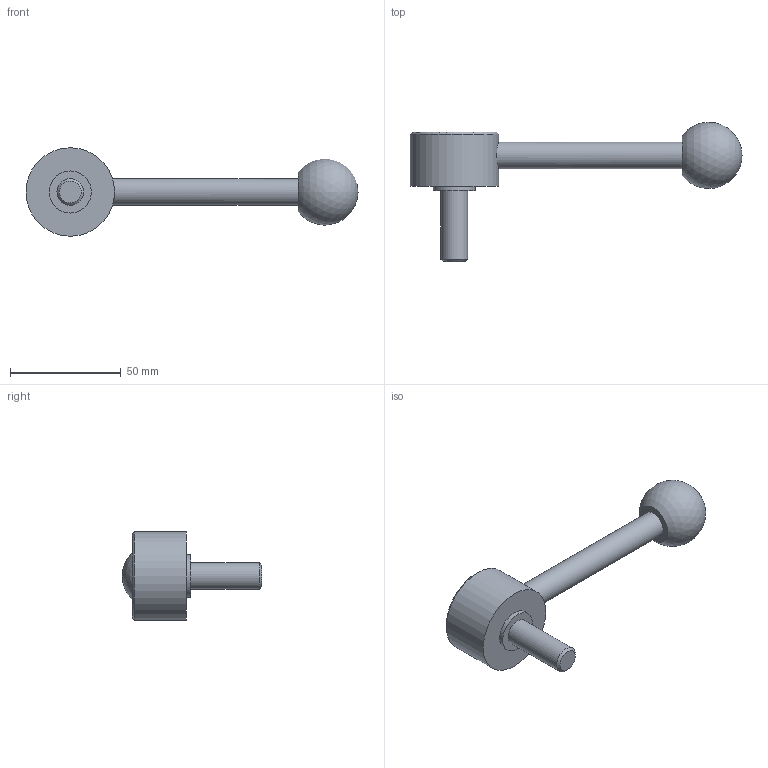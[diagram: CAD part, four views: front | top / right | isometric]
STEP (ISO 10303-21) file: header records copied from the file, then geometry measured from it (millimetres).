
FILE_DESCRIPTION( ( 'STEP AP203' ), '1' );
FILE_NAME( 'C:/Temp/Ganter_Step_05_03_2020/data/2_1/gn_125/gn_125_ms/gn_125_ms_d/Flat Adjustable Lever GN 125-40-M12-32-D.stp', '2020-03-05T11:00:50', ( 'License CC BY-ND 4.0' ), ( 'CADENAS' ), ' ', 'PARTsolutions', ' ' );
FILE_SCHEMA( ( 'CONFIG_CONTROL_DESIGN' ) );
Length unit declared in the file: millimetre
Products named in the file (1): _Flat Adjustable Lever GN 125-40-M12-32-D
Bounding box: 150 x 62.89 x 40 mm (x, y, z)
Volume: 57891.9 mm3; surface area: 12557.6 mm2
Topology: 1 solids, 1 shells, 14 faces, 23 edges, 15 vertices
Faces by surface type: plane 6, cylinder 5, cone 2, sphere 1
Full cylindrical faces by diameter (mm): 12 x2, 19 x1, 28 x1, 40 x1
Entity records: 402 total; most frequent: CARTESIAN_POINT 125, DIRECTION 54, AXIS2_PLACEMENT_3D 27, EDGE_LOOP 26, ORIENTED_EDGE 26, FACE_OUTER_BOUND 19, ADVANCED_FACE 14, VERTEX_POINT 14
